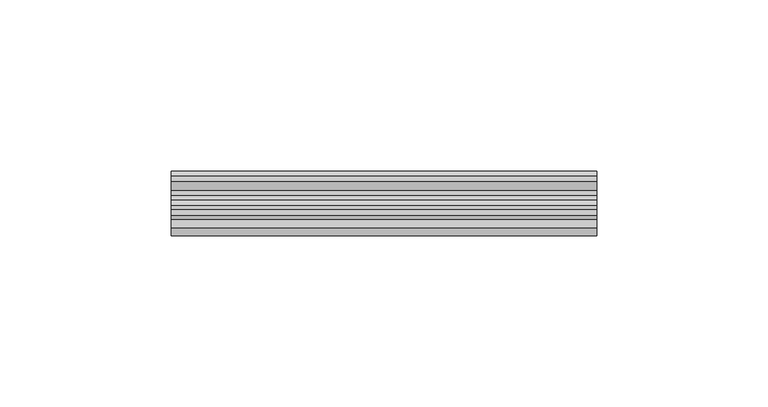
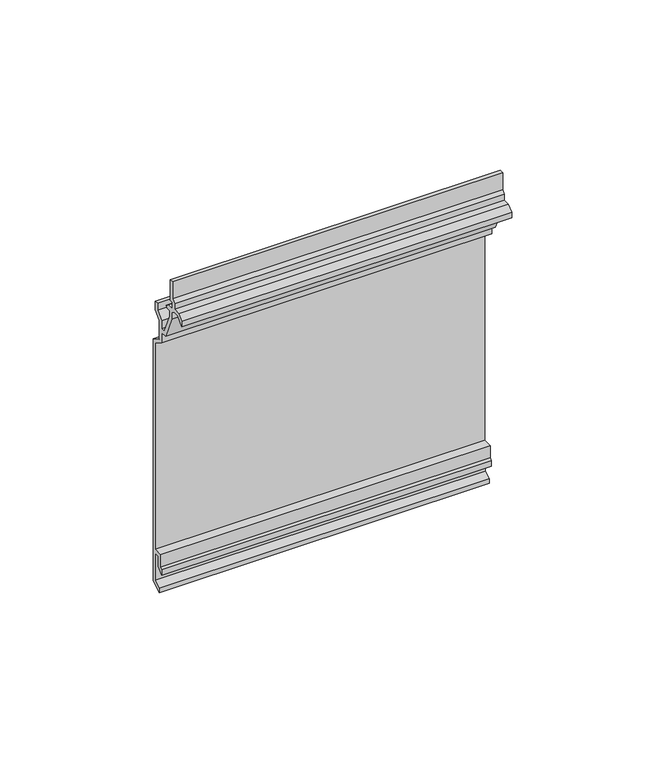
"""IFC4 building model written with IfcOpenShell, lengths in millimetres: plate geometry, FastPlank_P44V-V-Notch-4″-Plank-Horizontal : P44V-V-Notch-4″-Plank-Horizontal."""

from ifc_helpers import new_model, si_unit, frame, origin, place, context, project, spatial, polyline, outline, extrude, source, transform, mapped, element, save


def plate_b9223dce(model_context):
    return source(origin(), model_context, "Body", "SweptSolid", [
        extrude(outline(polyline([(18.8745946, 2.3957023), (14.7246029, 0.0), (14.7246029, 1.7319938), (17.3745976, 3.2617795), (17.3745976, 13.9827581), (15.5246013, 13.9827581), (15.5246013, 9.9691576), (13.3162936, 7.7608499), (13.3162936, 9.8794005), (14.0246043, 10.5877112), (14.0246043, 15.4863039), (17.5745972, 15.4863039), (17.5745972, 97.9535307), (13.2246059, 100.4649994), (13.2246059, 104.5739676), (10.7243127, 104.5739676), (6.5338639, 113.9609184), (6.5338639, 116.7763922), (5.0811989, 117.6150887), (2.6937325, 117.6150887), (0.0, 114.9213563), (0.0, 117.0394467), (2.1334241, 118.9150861), (4.7821608, 118.9150861), (4.7821608, 121.2437723), (6.0321583, 122.3427309), (6.0321583, 129.1909904), (7.5321553, 129.1909904), (7.5321553, 120.8578751), (6.2821578, 120.8578751), (6.2821578, 118.3909783), (8.8232117, 118.3909783), (10.3184198, 117.2227937), (9.7191932, 116.4558186), (8.0338609, 116.4558186), (8.0338609, 114.2522203), (11.708109, 106.0486482), (13.2246059, 106.0486482), (13.2246059, 109.2361164), (15.8746006, 111.8861111), (15.8746006, 114.5726601), (17.3745976, 114.5726601), (17.3745976, 111.264792), (14.7246029, 108.6147973), (14.7246029, 101.1000834), (18.8745946, 98.7040846), (18.8745946, 2.3957023)])), frame((-62.199981, 0.0, 0.0), z_axis=(1.0, 0.0, 0.0), x_axis=(0.0, 1.0, 0.0)), (0.0, 0.0, 1.0), 124.3999619),
    ])


if __name__ == "__main__":
    model = new_model("IFC4")
    model_context = context("Model", 3, world=origin())
    ifc_project = project(units=[si_unit("LENGTHUNIT", "METRE", prefix="MILLI")], contexts=[model_context])
    site = spatial("IfcSite", under=ifc_project)
    building = spatial("IfcBuilding", under=site)
    placement = place(None, origin())
    plate_shape = plate_b9223dce(model_context)
    element("IfcPlate", 1, ObjectType="FastPlank_P44V-V-Notch-4″-Plank-Horizontal : P44V-V-Notch-4″-Plank-Horizontal", at=placement, inside=building, context=model_context, shape_type="MappedRepresentation", body=[
        mapped(plate_shape, transform((0.0, 0.0, 0.0), x_axis=(1.0, 0.0, 0.0), y_axis=(0.0, 1.0, 0.0), z_axis=(0.0, 0.0, 1.0))),
    ])
    save(model, "model.ifc")
